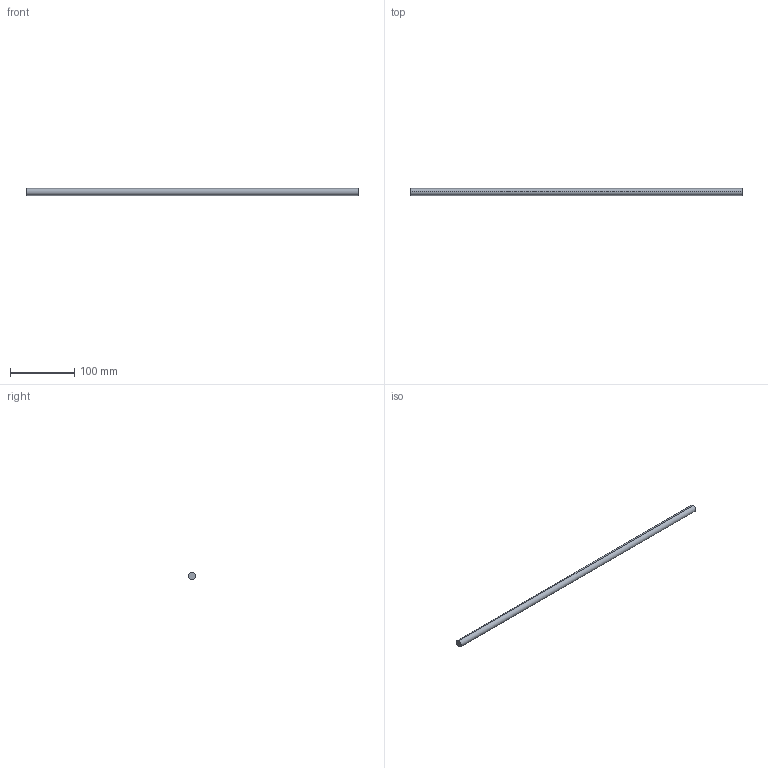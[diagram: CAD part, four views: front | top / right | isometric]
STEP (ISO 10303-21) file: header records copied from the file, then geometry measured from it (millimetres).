
FILE_DESCRIPTION (( 'STEP AP214' ), '1' );
FILE_NAME ('Querreling_Frontblende_Innenlade_KS-16_KAB-600.step', '2010-09-22T15:05:29', ( 'grass' ), ( '' ), 'SwSTEP 2.0', 'SolidWorks 2010', '' );
FILE_SCHEMA (( 'AUTOMOTIVE_DESIGN' ));
Length unit declared in the file: millimetre
Products named in the file (1): Querreling_Frontblende_Innenlade_KS-16_KAB-600
Bounding box: 515 x 11 x 11 mm (x, y, z)
Volume: 48942.1 mm3; surface area: 17987.2 mm2
Topology: 1 solids, 1 shells, 4 faces, 6 edges, 4 vertices
Faces by surface type: cylinder 2, plane 2
Entity records: 128 total; most frequent: DIRECTION 20, CARTESIAN_POINT 15, ORIENTED_EDGE 12, AXIS2_PLACEMENT_3D 9, EDGE_CURVE 6, CIRCLE 4, EDGE_LOOP 4, FACE_OUTER_BOUND 4
